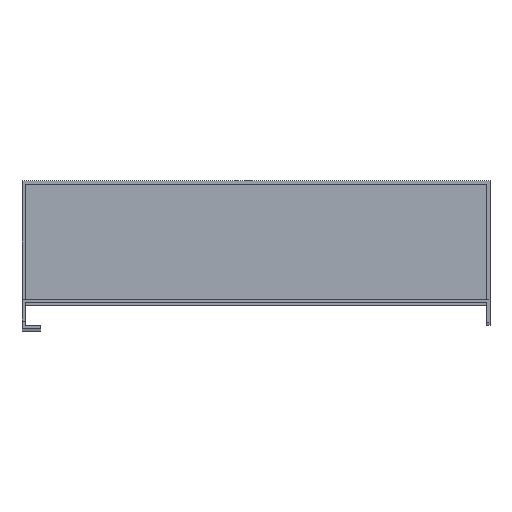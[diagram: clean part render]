
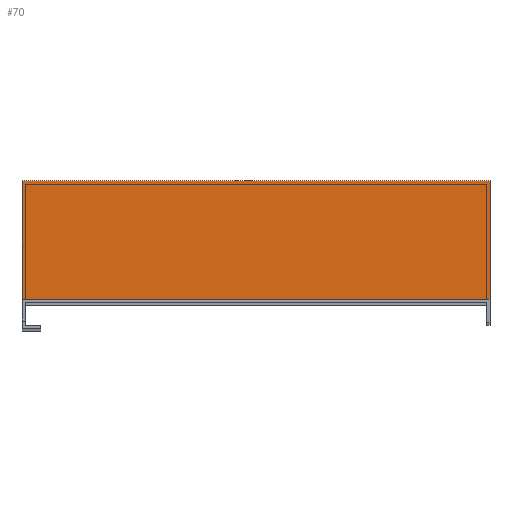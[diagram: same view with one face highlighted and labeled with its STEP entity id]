
A CAD part, top view. The second image highlights one B-rep face of the part: STEP entity #70.
In plain terms, the highlighted planar face has unit normal (0, 0, 1).
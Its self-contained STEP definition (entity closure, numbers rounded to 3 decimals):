
#4 = VERTEX_POINT ( 'NONE', #601 ) ;
#20 = EDGE_CURVE ( 'NONE', #1106, #1247, #136, .T. ) ;
#66 = CARTESIAN_POINT ( 'NONE',  ( -8., 62.5, 655.4 ) ) ;
#70 = ADVANCED_FACE ( 'NONE', ( #372 ), #1441, .T. ) ;
#109 = VERTEX_POINT ( 'NONE', #66 ) ;
#112 = DIRECTION ( 'NONE',  ( 0., 1., 0. ) ) ;
#136 = LINE ( 'NONE', #1084, #712 ) ;
#157 = DIRECTION ( 'NONE',  ( -1., 0., 0. ) ) ;
#225 = LINE ( 'NONE', #1302, #257 ) ;
#226 = EDGE_LOOP ( 'NONE', ( #759, #569, #1091, #1360 ) ) ;
#239 = AXIS2_PLACEMENT_3D ( 'NONE', #485, #847, #254 ) ;
#243 = CARTESIAN_POINT ( 'NONE',  ( 190., 0., 655.4 ) ) ;
#254 = DIRECTION ( 'NONE',  ( 0., -1., 0. ) ) ;
#257 = VECTOR ( 'NONE', #112, 1000. ) ;
#357 = EDGE_CURVE ( 'NONE', #1247, #4, #1099, .T. ) ;
#372 = FACE_OUTER_BOUND ( 'NONE', #226, .T. ) ;
#485 = CARTESIAN_POINT ( 'NONE',  ( 0., 0., 655.4 ) ) ;
#557 = CARTESIAN_POINT ( 'NONE',  ( -8., 62.5, 655.4 ) ) ;
#569 = ORIENTED_EDGE ( 'NONE', *, *, #962, .F. ) ;
#601 = CARTESIAN_POINT ( 'NONE',  ( 190., 62.5, 655.4 ) ) ;
#675 = LINE ( 'NONE', #557, #947 ) ;
#712 = VECTOR ( 'NONE', #992, 1000. ) ;
#740 = DIRECTION ( 'NONE',  ( 0., 1., 0. ) ) ;
#759 = ORIENTED_EDGE ( 'NONE', *, *, #1523, .T. ) ;
#847 = DIRECTION ( 'NONE',  ( 0., 0., 1. ) ) ;
#947 = VECTOR ( 'NONE', #157, 1000. ) ;
#962 = EDGE_CURVE ( 'NONE', #1106, #109, #225, .T. ) ;
#992 = DIRECTION ( 'NONE',  ( 1., 0., 0. ) ) ;
#1084 = CARTESIAN_POINT ( 'NONE',  ( 0., 12.4, 655.4 ) ) ;
#1091 = ORIENTED_EDGE ( 'NONE', *, *, #20, .T. ) ;
#1099 = LINE ( 'NONE', #243, #1429 ) ;
#1106 = VERTEX_POINT ( 'NONE', #1498 ) ;
#1247 = VERTEX_POINT ( 'NONE', #1511 ) ;
#1302 = CARTESIAN_POINT ( 'NONE',  ( -8., 59.4, 655.4 ) ) ;
#1360 = ORIENTED_EDGE ( 'NONE', *, *, #357, .T. ) ;
#1429 = VECTOR ( 'NONE', #740, 1000. ) ;
#1441 = PLANE ( 'NONE',  #239 ) ;
#1498 = CARTESIAN_POINT ( 'NONE',  ( -8., 12.4, 655.4 ) ) ;
#1511 = CARTESIAN_POINT ( 'NONE',  ( 190., 12.4, 655.4 ) ) ;
#1523 = EDGE_CURVE ( 'NONE', #4, #109, #675, .T. ) ;
